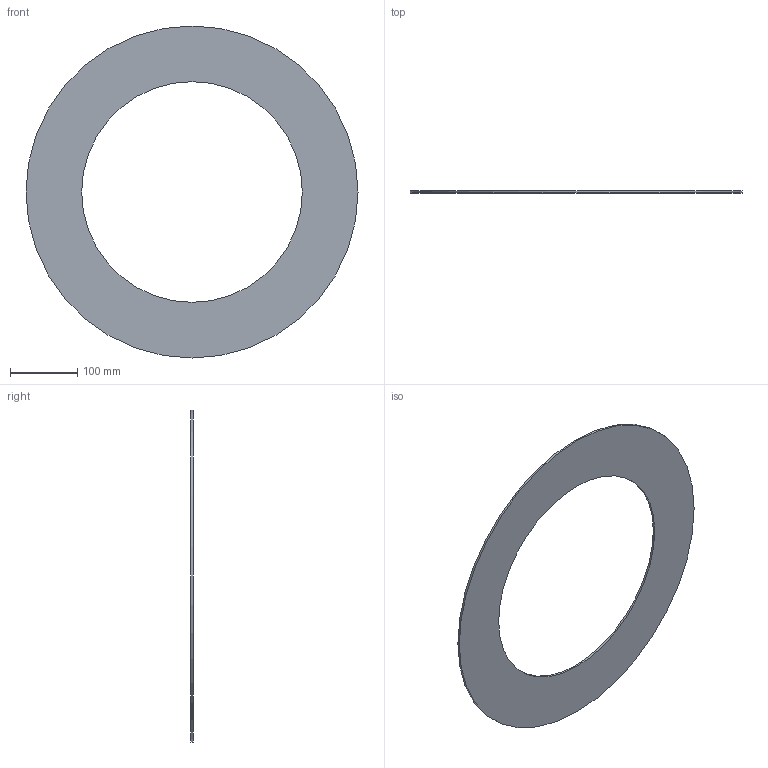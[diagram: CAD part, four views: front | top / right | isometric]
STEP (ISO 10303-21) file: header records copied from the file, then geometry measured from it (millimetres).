
FILE_DESCRIPTION(/* description */ ('Unknown'),/* implementation_level */ '2;1');
FILE_NAME(/* name */ 'GUA.400C',/* time_stamp */ '2021-04-01T14:10:58+02:00',/* author */ ('Unknown'),/* organization */ ('Unknown'),/* preprocessor_version */ 'ST-DEVELOPER v16.7',/* originating_system */ 'Solid Edge',/* authorisation */ 'Unknown');
FILE_SCHEMA (('AUTOMOTIVE_DESIGN {1 0 10303 214 3 1 1}'));
Length unit declared in the file: millimetre
Products named in the file (1): GUA.400C
Bounding box: 495 x 3 x 495 mm (x, y, z)
Volume: 322289.7 mm3; surface area: 222625.8 mm2
Topology: 1 solids, 1 shells, 4 faces, 6 edges, 4 vertices
Faces by surface type: cylinder 2, plane 2
Full cylindrical faces by diameter (mm): 329 x1, 495 x1
Entity records: 118 total; most frequent: DIRECTION 18, CARTESIAN_POINT 13, AXIS2_PLACEMENT_3D 9, ORIENTED_EDGE 8, EDGE_LOOP 8, FACE_BOUND 8, EDGE_CURVE 4, VERTEX_POINT 4
